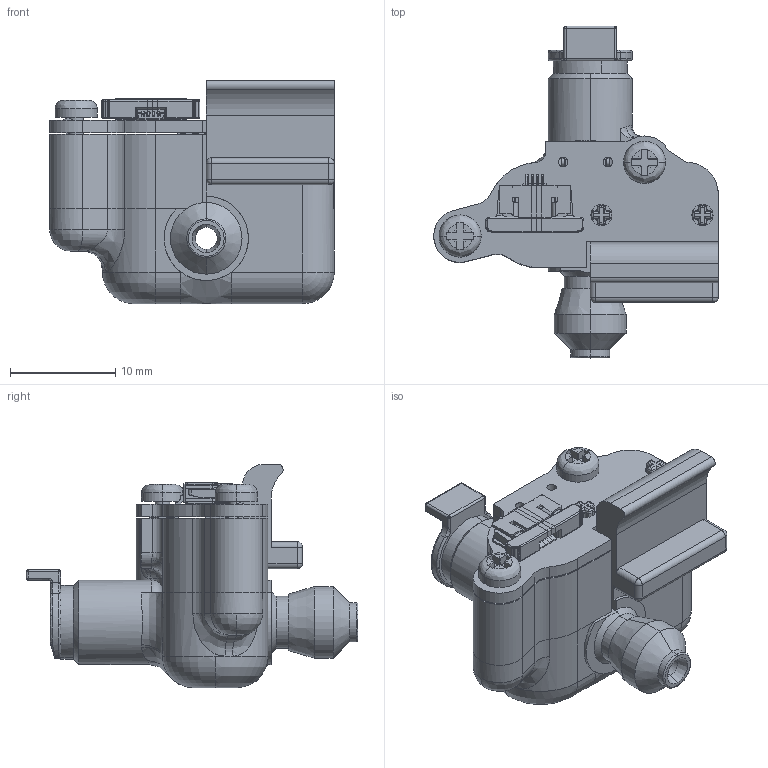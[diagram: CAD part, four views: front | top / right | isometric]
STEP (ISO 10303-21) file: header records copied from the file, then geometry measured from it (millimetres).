
FILE_DESCRIPTION(('FreeCAD Model'),'2;1');
FILE_NAME('Open CASCADE Shape Model','2024-10-30T12:37:57',(''),(''), 'Open CASCADE STEP processor 7.6','FreeCAD','Unknown');
FILE_SCHEMA(('AUTOMOTIVE_DESIGN { 1 0 10303 214 1 1 1 1 }'));
Length unit declared in the file: millimetre
Products named in the file (8): Roto MFM; Duet3 MFM 1; F32R-1A7H1-11005; Fusion; SW_TAC_90_TL3340AF160QG; P:\E-Switch Secure\3D_MODELS_STP_FORMAT\TL3340AF160QG.stp; Duet3 MFM_PCB; housing
Assembly tree (7 placements, depth 4):
  Roto MFM
    Duet3 MFM 1
      F32R-1A7H1-11005
        Fusion
      SW_TAC_90_TL3340AF160QG
        P:\E-Switch Secure\3D_MODELS_STP_FORMAT\TL3340AF160QG.stp
      Duet3 MFM_PCB
    housing
Bounding box: 27 x 31.5 x 21.2 mm (x, y, z)
Volume: 3401.1 mm3; surface area: 5250.5 mm2
Topology: 6 solids, 9 shells, 1709 faces, 8235 edges, 17478 vertices
Faces by surface type: plane 871, cylinder 604, bspline 104, cone 57, torus 50, sphere 17, revolution 6
Full cylindrical faces by diameter (mm): 0.46 x2, 0.5 x5, 0.8 x1, 0.9 x3, 2 x3, 2.1 x1, 2.5 x3
Entity records: 201910 total; most frequent: CARTESIAN_POINT 85911, DIRECTION 19984, LINE 11424, VECTOR 11424, ORIENTED_EDGE 9054, PCURVE 9052, DEFINITIONAL_REPRESENTATION 9052, EDGE_CURVE 4526
